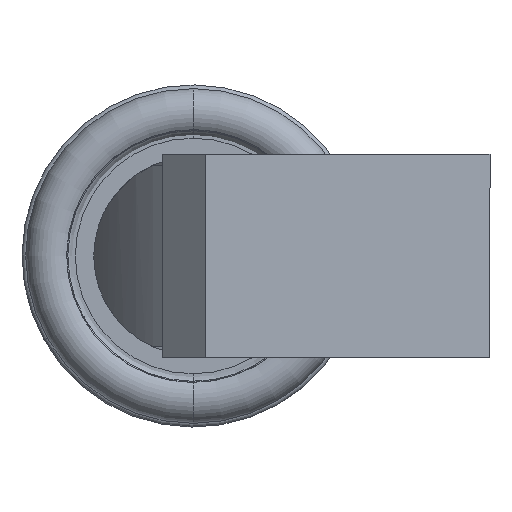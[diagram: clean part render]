
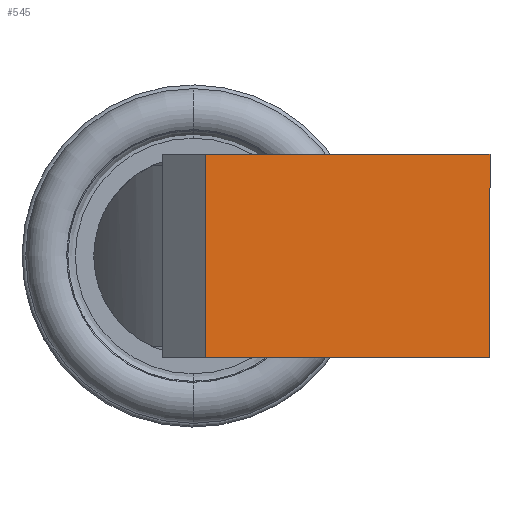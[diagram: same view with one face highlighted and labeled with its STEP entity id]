
A CAD part, left-side view. The second image highlights one B-rep face of the part: STEP entity #545.
In plain terms, the highlighted planar face has unit normal (-0.998, -0.069, 0).
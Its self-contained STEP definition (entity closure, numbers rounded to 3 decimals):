
#54 = EDGE_LOOP ( 'NONE', ( #389, #686, #2906, #1397 ) ) ;
#83 = EDGE_CURVE ( 'NONE', #2528, #2763, #1658, .T. ) ;
#304 = DIRECTION ( 'NONE',  ( 0., 0., 1. ) ) ;
#389 = ORIENTED_EDGE ( 'NONE', *, *, #2291, .F. ) ;
#545 = ADVANCED_FACE ( 'NONE', ( #2289 ), #1758, .F. ) ;
#583 = DIRECTION ( 'NONE',  ( -0.069, 0.998, 0. ) ) ;
#592 = VERTEX_POINT ( 'NONE', #1311 ) ;
#664 = DIRECTION ( 'NONE',  ( 0.998, 0.069, 0. ) ) ;
#686 = ORIENTED_EDGE ( 'NONE', *, *, #1121, .T. ) ;
#788 = LINE ( 'NONE', #1801, #1010 ) ;
#825 = DIRECTION ( 'NONE',  ( -0.069, 0.998, 0. ) ) ;
#931 = EDGE_CURVE ( 'NONE', #592, #2763, #1646, .T. ) ;
#984 = CARTESIAN_POINT ( 'NONE',  ( -139.513, -0.5, -15. ) ) ;
#1010 = VECTOR ( 'NONE', #1111, 1000. ) ;
#1111 = DIRECTION ( 'NONE',  ( 0., 0., 1. ) ) ;
#1121 = EDGE_CURVE ( 'NONE', #2490, #592, #788, .T. ) ;
#1199 = VECTOR ( 'NONE', #304, 1000. ) ;
#1309 = VECTOR ( 'NONE', #825, 1000. ) ;
#1311 = CARTESIAN_POINT ( 'NONE',  ( -138.716, -11.973, 4.1 ) ) ;
#1355 = VECTOR ( 'NONE', #583, 1000. ) ;
#1397 = ORIENTED_EDGE ( 'NONE', *, *, #83, .F. ) ;
#1646 = LINE ( 'NONE', #2825, #1355 ) ;
#1658 = LINE ( 'NONE', #984, #1199 ) ;
#1745 = CARTESIAN_POINT ( 'NONE',  ( -138.878, -9.648, -4.1 ) ) ;
#1758 = PLANE ( 'NONE',  #1872 ) ;
#1801 = CARTESIAN_POINT ( 'NONE',  ( -138.716, -11.973, -15. ) ) ;
#1872 = AXIS2_PLACEMENT_3D ( 'NONE', #2671, #664, #2004 ) ;
#2004 = DIRECTION ( 'NONE',  ( -0.069, 0.998, 0. ) ) ;
#2289 = FACE_OUTER_BOUND ( 'NONE', #54, .T. ) ;
#2291 = EDGE_CURVE ( 'NONE', #2490, #2528, #2681, .T. ) ;
#2402 = CARTESIAN_POINT ( 'NONE',  ( -139.513, -0.5, -4.1 ) ) ;
#2490 = VERTEX_POINT ( 'NONE', #2623 ) ;
#2528 = VERTEX_POINT ( 'NONE', #2402 ) ;
#2555 = CARTESIAN_POINT ( 'NONE',  ( -139.513, -0.5, 4.1 ) ) ;
#2623 = CARTESIAN_POINT ( 'NONE',  ( -138.716, -11.973, -4.1 ) ) ;
#2671 = CARTESIAN_POINT ( 'NONE',  ( -138.878, -9.648, -15. ) ) ;
#2681 = LINE ( 'NONE', #1745, #1309 ) ;
#2763 = VERTEX_POINT ( 'NONE', #2555 ) ;
#2825 = CARTESIAN_POINT ( 'NONE',  ( -138.878, -9.648, 4.1 ) ) ;
#2906 = ORIENTED_EDGE ( 'NONE', *, *, #931, .T. ) ;
